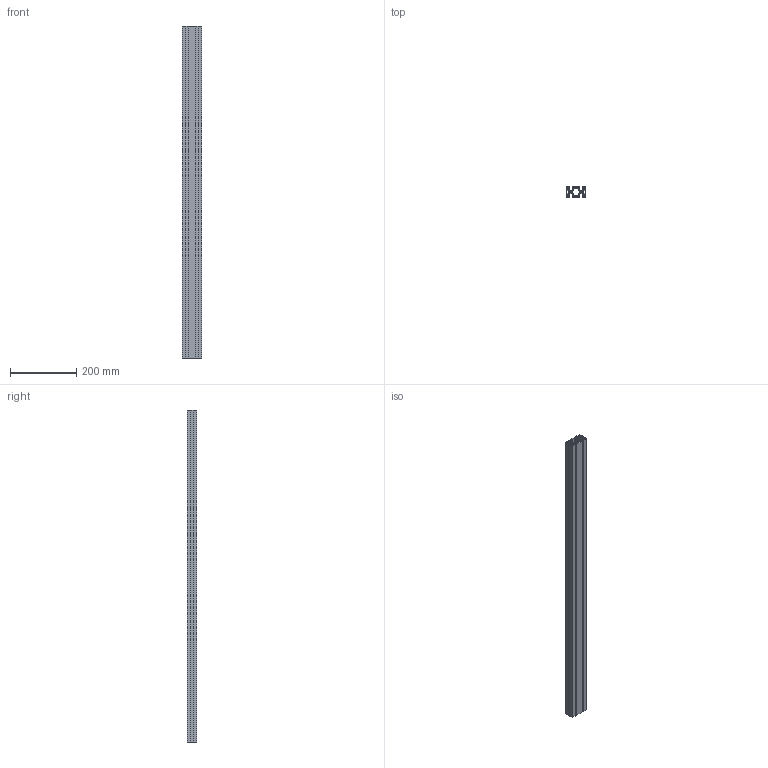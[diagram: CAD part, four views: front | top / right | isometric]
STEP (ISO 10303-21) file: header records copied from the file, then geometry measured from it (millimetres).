
FILE_DESCRIPTION(/* description */ (''),/* implementation_level */ '2;1');
FILE_NAME(/* name */ 'C:\Users\AMS43\Documents\Inventor\AMS\misumi\\X2\30D530EC30FC30E0\X0\_ipt\フレーム_stp\AFS-3060-6.ipt.stp',/* time_stamp */ '2016-10-06T11:43:53+09:00',/* author */ ('AMS43'),/* organization */ (''),/* preprocessor_version */ 'ST-DEVELOPER v15.2',/* originating_system */ 'Autodesk Inventor 2014',/* authorisation */ '');
FILE_SCHEMA (('AUTOMOTIVE_DESIGN { 1 0 10303 214 3 1 1 }'));
Length unit declared in the file: metre
Products named in the file (1): AFS-3060-6
Bounding box: 60 x 30 x 1000 mm (x, y, z)
Volume: 694100 mm3; surface area: 539305.1 mm2
Topology: 1 solids, 1 shells, 112 faces, 330 edges, 220 vertices
Faces by surface type: plane 90, cylinder 22
Full cylindrical faces by diameter (mm): 5 x2, 6 x4
Entity records: 3727 total; most frequent: CARTESIAN_POINT 657, ORIENTED_EDGE 648, DIRECTION 594, EDGE_CURVE 324, LINE 280, VECTOR 280, VERTEX_POINT 220, AXIS2_PLACEMENT_3D 157
